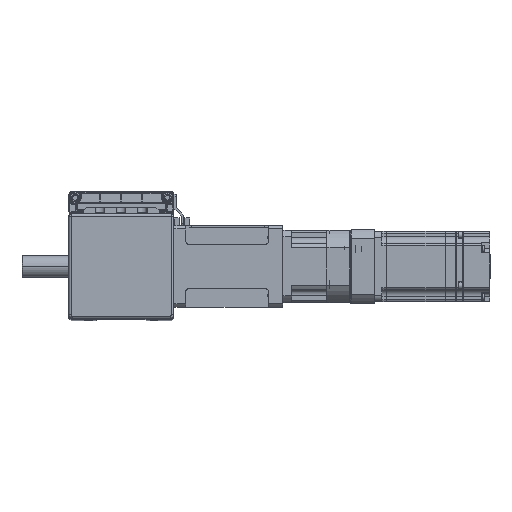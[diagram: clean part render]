
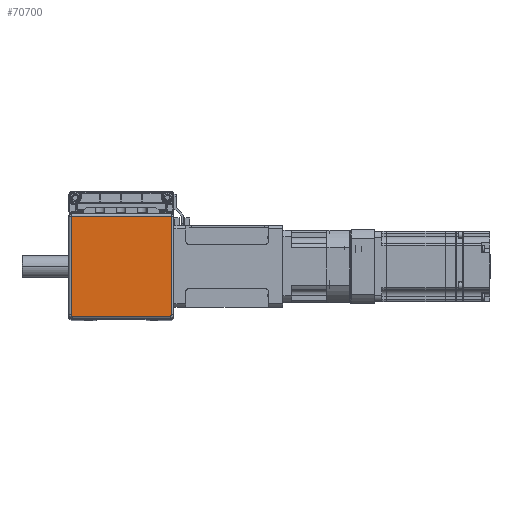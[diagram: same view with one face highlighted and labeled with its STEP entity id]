
A CAD part, top view. The second image highlights one B-rep face of the part: STEP entity #70700.
In plain terms, the highlighted planar face has unit normal (0, 0, 1).
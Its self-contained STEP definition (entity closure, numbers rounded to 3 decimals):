
#4657 = AXIS2_PLACEMENT_3D ( 'NONE', #69833, #69831, #69819 ) ;
#5486 = EDGE_LOOP ( 'NONE', ( #40635, #40600, #40628, #39780, #39815, #39824 ) ) ;
#11431 = VERTEX_POINT ( 'NONE', #23747 ) ;
#15325 = VERTEX_POINT ( 'NONE', #23824 ) ;
#15425 = VERTEX_POINT ( 'NONE', #23923 ) ;
#23747 = CARTESIAN_POINT ( 'NONE',  ( -42., -58.599, 55. ) ) ;
#23824 = CARTESIAN_POINT ( 'NONE',  ( 43., 26.901, 55. ) ) ;
#23923 = CARTESIAN_POINT ( 'NONE',  ( 42., -58.599, 55. ) ) ;
#25886 = DIRECTION ( 'NONE',  ( 0., 0., 1. ) ) ;
#25901 = DIRECTION ( 'NONE',  ( 1., 0., 0. ) ) ;
#25912 = CARTESIAN_POINT ( 'NONE',  ( -42., -57.599, 55. ) ) ;
#25964 = CARTESIAN_POINT ( 'NONE',  ( 42., -57.599, 55. ) ) ;
#25969 = DIRECTION ( 'NONE',  ( 1., 0., 0. ) ) ;
#25972 = DIRECTION ( 'NONE',  ( 0., -1., 0. ) ) ;
#25975 = DIRECTION ( 'NONE',  ( 0., 0., 1. ) ) ;
#25990 = CARTESIAN_POINT ( 'NONE',  ( 43., 26.901, 55. ) ) ;
#25995 = CARTESIAN_POINT ( 'NONE',  ( -43., -57.599, 55. ) ) ;
#25998 = DIRECTION ( 'NONE',  ( 0., 1., 0. ) ) ;
#26051 = DIRECTION ( 'NONE',  ( 1., 0., 0. ) ) ;
#26071 = CARTESIAN_POINT ( 'NONE',  ( -43., 26.901, 55. ) ) ;
#26073 = DIRECTION ( 'NONE',  ( -1., 0., 0. ) ) ;
#26080 = CARTESIAN_POINT ( 'NONE',  ( 42., -58.599, 55. ) ) ;
#33717 = FACE_OUTER_BOUND ( 'NONE', #5486, .T. ) ;
#35036 = AXIS2_PLACEMENT_3D ( 'NONE', #25912, #25886, #25901 ) ;
#35056 = AXIS2_PLACEMENT_3D ( 'NONE', #25964, #25975, #25969 ) ;
#36846 = VERTEX_POINT ( 'NONE', #46366 ) ;
#37935 = VERTEX_POINT ( 'NONE', #46561 ) ;
#39171 = VERTEX_POINT ( 'NONE', #47631 ) ;
#39780 = ORIENTED_EDGE ( 'NONE', *, *, #51596, .T. ) ;
#39815 = ORIENTED_EDGE ( 'NONE', *, *, #51675, .T. ) ;
#39824 = ORIENTED_EDGE ( 'NONE', *, *, #51636, .T. ) ;
#40600 = ORIENTED_EDGE ( 'NONE', *, *, #51677, .T. ) ;
#40628 = ORIENTED_EDGE ( 'NONE', *, *, #51644, .T. ) ;
#40635 = ORIENTED_EDGE ( 'NONE', *, *, #51628, .T. ) ;
#45033 = LINE ( 'NONE', #26080, #45062 ) ;
#45061 = VECTOR ( 'NONE', #26073, 1000. ) ;
#45062 = VECTOR ( 'NONE', #26051, 1000. ) ;
#45065 = LINE ( 'NONE', #26071, #45061 ) ;
#46366 = CARTESIAN_POINT ( 'NONE',  ( 43., -57.599, 55. ) ) ;
#46561 = CARTESIAN_POINT ( 'NONE',  ( -43., -57.599, 55. ) ) ;
#47631 = CARTESIAN_POINT ( 'NONE',  ( -43., 26.901, 55. ) ) ;
#51596 = EDGE_CURVE ( 'NONE', #37935, #11431, #65012, .T. ) ;
#51628 = EDGE_CURVE ( 'NONE', #36846, #15325, #65002, .T. ) ;
#51636 = EDGE_CURVE ( 'NONE', #15425, #36846, #64360, .T. ) ;
#51644 = EDGE_CURVE ( 'NONE', #39171, #37935, #63977, .T. ) ;
#51675 = EDGE_CURVE ( 'NONE', #11431, #15425, #45033, .T. ) ;
#51677 = EDGE_CURVE ( 'NONE', #15325, #39171, #45065, .T. ) ;
#63977 = LINE ( 'NONE', #25995, #64067 ) ;
#64067 = VECTOR ( 'NONE', #25972, 1000. ) ;
#64360 = CIRCLE ( 'NONE', #35056, 1. ) ;
#65002 = LINE ( 'NONE', #25990, #65005 ) ;
#65005 = VECTOR ( 'NONE', #25998, 1000. ) ;
#65012 = CIRCLE ( 'NONE', #35036, 1. ) ;
#69819 = DIRECTION ( 'NONE',  ( 1., 0., 0. ) ) ;
#69831 = DIRECTION ( 'NONE',  ( 0., 0., 1. ) ) ;
#69833 = CARTESIAN_POINT ( 'NONE',  ( -43., 26.901, 55. ) ) ;
#69881 = PLANE ( 'NONE',  #4657 ) ;
#70700 = ADVANCED_FACE ( 'NONE', ( #33717 ), #69881, .T. ) ;
